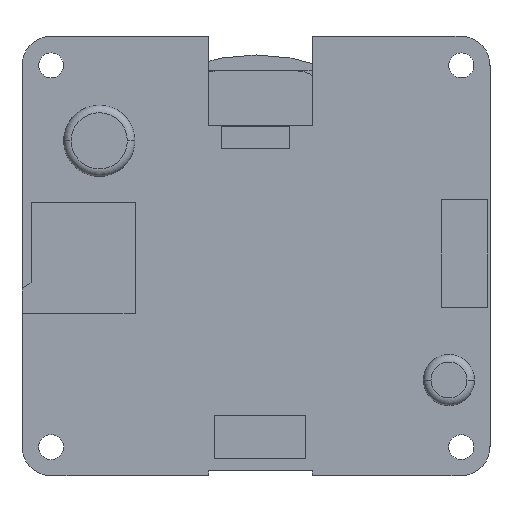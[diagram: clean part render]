
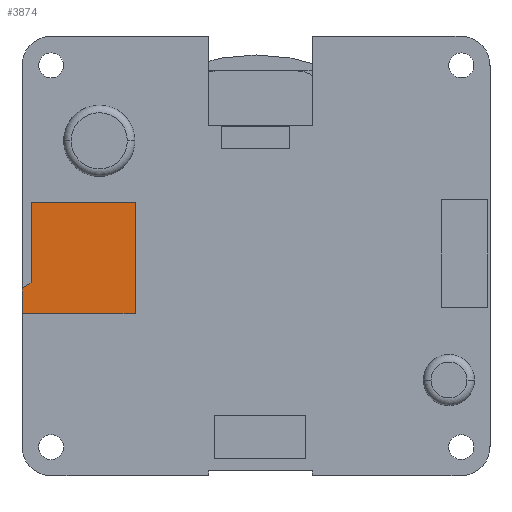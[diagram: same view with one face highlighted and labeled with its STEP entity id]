
A CAD part, front view. The second image highlights one B-rep face of the part: STEP entity #3874.
In plain terms, the highlighted planar face has unit normal (0, -1, 0) as drawn and (0, 1, 0) by its records, which use the part's own axes.
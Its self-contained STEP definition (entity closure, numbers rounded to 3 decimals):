
#280 = CARTESIAN_POINT ( 'NONE',  ( 32.762, 2., 3.759 ) ) ;
#311 = VECTOR ( 'NONE', #2936, 1000. ) ;
#431 = VERTEX_POINT ( 'NONE', #5600 ) ;
#624 = ORIENTED_EDGE ( 'NONE', *, *, #3318, .T. ) ;
#873 = CARTESIAN_POINT ( 'NONE',  ( 18.11, 2., -11.102 ) ) ;
#1325 = EDGE_LOOP ( 'NONE', ( #6410, #1338, #2156, #6076, #4238, #624 ) ) ;
#1338 = ORIENTED_EDGE ( 'NONE', *, *, #2561, .T. ) ;
#1762 = CARTESIAN_POINT ( 'NONE',  ( 29.357, 2., 3.759 ) ) ;
#1872 = LINE ( 'NONE', #280, #6365 ) ;
#2106 = EDGE_CURVE ( 'NONE', #3907, #5198, #1872, .T. ) ;
#2156 = ORIENTED_EDGE ( 'NONE', *, *, #4064, .T. ) ;
#2186 = LINE ( 'NONE', #3899, #6513 ) ;
#2216 = DIRECTION ( 'NONE',  ( 1., 0., 0. ) ) ;
#2315 = EDGE_CURVE ( 'NONE', #3959, #5457, #5841, .T. ) ;
#2532 = CARTESIAN_POINT ( 'NONE',  ( 0., 2., 0. ) ) ;
#2561 = EDGE_CURVE ( 'NONE', #5198, #4620, #3436, .T. ) ;
#2704 = AXIS2_PLACEMENT_3D ( 'NONE', #2532, #6466, #4236 ) ;
#2936 = DIRECTION ( 'NONE',  ( 1., 0., 0. ) ) ;
#2949 = LINE ( 'NONE', #6017, #5760 ) ;
#3039 = CARTESIAN_POINT ( 'NONE',  ( 32.762, 2., 3.759 ) ) ;
#3133 = DIRECTION ( 'NONE',  ( 0., 0., -1. ) ) ;
#3251 = VECTOR ( 'NONE', #3915, 1000. ) ;
#3318 = EDGE_CURVE ( 'NONE', #5457, #3907, #2186, .T. ) ;
#3436 = LINE ( 'NONE', #5604, #3251 ) ;
#3874 = ADVANCED_FACE ( 'NONE', ( #6045 ), #4385, .T. ) ;
#3899 = CARTESIAN_POINT ( 'NONE',  ( 29.357, 2., 3.759 ) ) ;
#3907 = VERTEX_POINT ( 'NONE', #3039 ) ;
#3915 = DIRECTION ( 'NONE',  ( -1., 0., 0. ) ) ;
#3959 = VERTEX_POINT ( 'NONE', #6337 ) ;
#4064 = EDGE_CURVE ( 'NONE', #4620, #431, #2949, .T. ) ;
#4221 = CARTESIAN_POINT ( 'NONE',  ( 32.762, 2., -11.102 ) ) ;
#4236 = DIRECTION ( 'NONE',  ( 0., 0., 1. ) ) ;
#4238 = ORIENTED_EDGE ( 'NONE', *, *, #2315, .T. ) ;
#4385 = PLANE ( 'NONE',  #2704 ) ;
#4620 = VERTEX_POINT ( 'NONE', #873 ) ;
#4637 = EDGE_CURVE ( 'NONE', #431, #3959, #4640, .T. ) ;
#4640 = LINE ( 'NONE', #6295, #311 ) ;
#5198 = VERTEX_POINT ( 'NONE', #4221 ) ;
#5266 = CARTESIAN_POINT ( 'NONE',  ( 28.679, 2., 2.62 ) ) ;
#5457 = VERTEX_POINT ( 'NONE', #1762 ) ;
#5600 = CARTESIAN_POINT ( 'NONE',  ( 18.11, 2., 2.62 ) ) ;
#5604 = CARTESIAN_POINT ( 'NONE',  ( 32.762, 2., -11.102 ) ) ;
#5760 = VECTOR ( 'NONE', #7096, 1000. ) ;
#5841 = LINE ( 'NONE', #5266, #7141 ) ;
#6017 = CARTESIAN_POINT ( 'NONE',  ( 18.11, 2., -11.102 ) ) ;
#6045 = FACE_OUTER_BOUND ( 'NONE', #1325, .T. ) ;
#6076 = ORIENTED_EDGE ( 'NONE', *, *, #4637, .T. ) ;
#6295 = CARTESIAN_POINT ( 'NONE',  ( 18.11, 2., 2.62 ) ) ;
#6337 = CARTESIAN_POINT ( 'NONE',  ( 28.679, 2., 2.62 ) ) ;
#6365 = VECTOR ( 'NONE', #3133, 1000. ) ;
#6410 = ORIENTED_EDGE ( 'NONE', *, *, #2106, .T. ) ;
#6466 = DIRECTION ( 'NONE',  ( 0., 1., 0. ) ) ;
#6513 = VECTOR ( 'NONE', #2216, 1000. ) ;
#6890 = DIRECTION ( 'NONE',  ( 0.512, 0., 0.859 ) ) ;
#7096 = DIRECTION ( 'NONE',  ( 0., 0., 1. ) ) ;
#7141 = VECTOR ( 'NONE', #6890, 1000. ) ;
